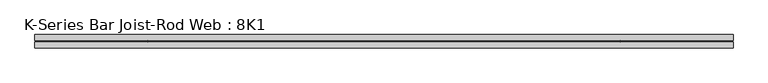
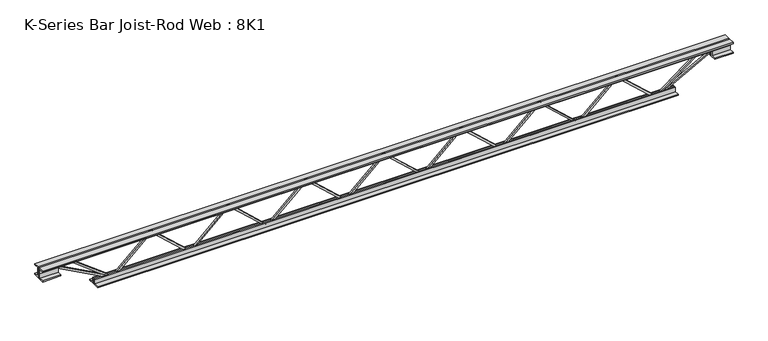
"""IFC4 building model written with IfcOpenShell, lengths in millimetres: beam geometry, K-Series Bar Joist-Rod Web : 8K1."""

from ifc_helpers import new_model, si_unit, frame, origin, place, context, project, spatial, polyline, outline, extrude, source, transform, mapped, element, save


def k_series_bar_joist_rod_web_8k1_8956f8d8(model_context):
    return source(origin(), model_context, "Body", "SweptSolid", [
        extrude(outline(polyline([(-90.4875, 644.6574045), (-100.0125, 644.6574045), (-100.0125, 649.6802342), (90.4875, 858.2160357), (90.4875, 860.8703764), (-100.0125, 1069.4061779), (-100.0125, 1074.4290076), (-90.4875, 1074.4290076), (-90.4875, 1073.1018372), (100.0125, 864.5660357), (100.0125, 854.5203764), (-90.4875, 645.9845749), (-90.4875, 644.6574045)])), frame((0.0, -4.7625, 0.0), z_axis=(0.0, 1.0, 0.0), x_axis=(0.0, 0.0, 1.0)), (0.0, 0.0, 1.0), 9.525),
        extrude(outline(polyline([(-90.4875, 214.8858015), (-100.0125, 214.8858015), (-100.0125, 219.9086312), (90.4875, 428.4444327), (90.4875, 431.0987734), (-100.0125, 639.6345749), (-100.0125, 644.6574045), (-90.4875, 644.6574045), (-90.4875, 643.3302342), (100.0125, 434.7944327), (100.0125, 424.7487734), (-90.4875, 216.2129719), (-90.4875, 214.8858015)])), frame((0.0, -4.7625, 0.0), z_axis=(0.0, 1.0, 0.0), x_axis=(0.0, 0.0, 1.0)), (0.0, 0.0, 1.0), 9.525),
        extrude(outline(polyline([(-90.4875, -214.8858015), (-100.0125, -214.8858015), (-100.0125, -209.8629719), (90.4875, -1.3271704), (90.4875, 1.3271704), (-100.0125, 209.8629719), (-100.0125, 214.8858015), (-90.4875, 214.8858015), (-90.4875, 213.5586312), (100.0125, 5.0228296), (100.0125, -5.0228296), (-90.4875, -213.5586312), (-90.4875, -214.8858015)])), frame((0.0, -4.7625, 0.0), z_axis=(0.0, 1.0, 0.0), x_axis=(0.0, 0.0, 1.0)), (0.0, 0.0, 1.0), 9.525),
        extrude(outline(polyline([(-90.4875, -644.6574045), (-100.0125, -644.6574045), (-100.0125, -639.6345749), (90.4875, -431.0987734), (90.4875, -428.4444327), (-100.0125, -219.9086312), (-100.0125, -214.8858015), (-90.4875, -214.8858015), (-90.4875, -216.2129719), (100.0125, -424.7487734), (100.0125, -434.7944327), (-90.4875, -643.3302342), (-90.4875, -644.6574045)])), frame((0.0, -4.7625, 0.0), z_axis=(0.0, 1.0, 0.0), x_axis=(0.0, 0.0, 1.0)), (0.0, 0.0, 1.0), 9.525),
        extrude(outline(polyline([(-90.4875, -1074.4290076), (-100.0125, -1074.4290076), (-100.0125, -1069.4061779), (90.4875, -860.8703764), (90.4875, -858.2160357), (-100.0125, -649.6802342), (-100.0125, -644.6574045), (-90.4875, -644.6574045), (-90.4875, -645.9845749), (100.0125, -854.5203764), (100.0125, -864.5660357), (-90.4875, -1073.1018372), (-90.4875, -1074.4290076)])), frame((0.0, -4.7625, 0.0), z_axis=(0.0, 1.0, 0.0), x_axis=(0.0, 0.0, 1.0)), (0.0, 0.0, 1.0), 9.525),
        extrude(outline(polyline([(-90.4875, 1074.4290076), (-100.0125, 1074.4290076), (-100.0125, 1079.4518372), (90.4875, 1287.9876387), (90.4875, 1290.6419794), (-100.0125, 1499.1777809), (-100.0125, 1504.2006106), (-90.4875, 1504.2006106), (-90.4875, 1502.8734402), (100.0125, 1294.3376387), (100.0125, 1284.2919794), (-90.4875, 1075.7561779), (-90.4875, 1074.4290076)])), frame((0.0, -4.7625, 0.0), z_axis=(0.0, 1.0, 0.0), x_axis=(0.0, 0.0, 1.0)), (0.0, 0.0, 1.0), 9.525),
        extrude(outline(polyline([(-90.4875, -1504.2006106), (-100.0125, -1504.2006106), (-100.0125, -1499.1777809), (90.4875, -1290.6419794), (90.4875, -1287.9876387), (-100.0125, -1079.4518372), (-100.0125, -1074.4290076), (-90.4875, -1074.4290076), (-90.4875, -1075.7561779), (100.0125, -1284.2919794), (100.0125, -1294.3376387), (-90.4875, -1502.8734402), (-90.4875, -1504.2006106)])), frame((0.0, -4.7625, 0.0), z_axis=(0.0, 1.0, 0.0), x_axis=(0.0, 0.0, 1.0)), (0.0, 0.0, 1.0), 9.525),
        extrude(outline(polyline([(4.7625, 101.6), (36.5125, 101.6), (36.5125, 95.25), (11.1125, 95.25), (11.1125, 69.85), (4.7625, 69.85), (4.7625, 101.6)])), frame((-1910.6006106, 0.0, 0.0), z_axis=(1.0, 0.0, 0.0), x_axis=(0.0, 1.0, 0.0)), (0.0, 0.0, 1.0), 3821.2012212),
        extrude(outline(polyline([(-4.7625, 101.6), (-4.7625, 69.85), (-11.1125, 69.85), (-11.1125, 95.25), (-36.5125, 95.25), (-36.5125, 101.6), (-4.7625, 101.6)])), frame((-1910.6006106, 0.0, 0.0), z_axis=(1.0, 0.0, 0.0), x_axis=(0.0, 1.0, 0.0)), (0.0, 0.0, 1.0), 3821.2012212),
        extrude(outline(polyline([(-4.7625, 38.1), (-36.5125, 38.1), (-36.5125, 44.45), (-11.1125, 44.45), (-11.1125, 69.85), (-4.7625, 69.85), (-4.7625, 38.1)])), frame((-1910.6006106, 0.0, 0.0), z_axis=(1.0, 0.0, 0.0), x_axis=(0.0, 1.0, 0.0)), (0.0, 0.0, 1.0), 101.6),
        extrude(outline(polyline([(36.5125, 38.1), (4.7625, 38.1), (4.7625, 69.85), (11.1125, 69.85), (11.1125, 44.45), (36.5125, 44.45), (36.5125, 38.1)])), frame((-1910.6006106, 0.0, 0.0), z_axis=(1.0, 0.0, 0.0), x_axis=(0.0, 1.0, 0.0)), (0.0, 0.0, 1.0), 101.6),
        extrude(outline(polyline([(4.7625, 38.1), (4.7625, 69.85), (11.1125, 69.85), (11.1125, 44.45), (36.5125, 44.45), (36.5125, 38.1), (4.7625, 38.1)])), frame((1809.0006106, 0.0, 0.0), z_axis=(1.0, 0.0, 0.0), x_axis=(0.0, 1.0, 0.0)), (0.0, 0.0, 1.0), 101.6),
        extrude(outline(polyline([(-4.7625, 38.1), (-36.5125, 38.1), (-36.5125, 44.45), (-11.1125, 44.45), (-11.1125, 69.85), (-4.7625, 69.85), (-4.7625, 38.1)])), frame((1809.0006106, 0.0, 0.0), z_axis=(1.0, 0.0, 0.0), x_axis=(0.0, 1.0, 0.0)), (0.0, 0.0, 1.0), 101.6),
        extrude(outline(polyline([(4.7625, -101.6), (4.7625, -69.85), (11.1125, -69.85), (11.1125, -95.25), (36.5125, -95.25), (36.5125, -101.6), (4.7625, -101.6)])), frame((-1605.8006106, 0.0, 0.0), z_axis=(1.0, 0.0, 0.0), x_axis=(0.0, 1.0, 0.0)), (0.0, 0.0, 1.0), 3211.6012212),
        extrude(outline(polyline([(-4.7625, -101.6), (-36.5125, -101.6), (-36.5125, -95.25), (-11.1125, -95.25), (-11.1125, -69.85), (-4.7625, -69.85), (-4.7625, -101.6)])), frame((-1605.8006106, 0.0, 0.0), z_axis=(1.0, 0.0, 0.0), x_axis=(0.0, 1.0, 0.0)), (0.0, 0.0, 1.0), 3211.6012212),
        extrude(outline(polyline([(0.0, -9.525), (0.0, 0.0), (346.6425392, 0.0), (346.6425392, -9.525), (0.0, -9.525)])), frame((-1811.2689091, 4.7625, 65.662372), z_axis=(0.47628314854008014, 0.0, 0.8792919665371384), x_axis=(0.8792919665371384, 0.0, -0.47628314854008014)), (0.0, 0.0, 1.0), 9.525),
        extrude(outline(polyline([(0.0, -9.525), (0.0, 0.0), (270.9869327, 0.0), (270.9869327, -9.525), (0.0, -9.525)])), frame((-1721.9879865, 4.7625, 66.0734576), z_axis=(0.6092544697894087, 0.0, 0.7929747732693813), x_axis=(0.7929747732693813, 0.0, -0.6092544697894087)), (0.0, 0.0, 1.0), 9.525),
        extrude(outline(polyline([(0.0, -9.525), (0.0, 0.0), (346.6425392, 0.0), (346.6425392, -9.525), (0.0, -9.525)])), frame((1811.2689091, -4.7625, 65.662372), z_axis=(-0.47628314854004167, 0.0, 0.8792919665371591), x_axis=(-0.8792919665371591, 0.0, -0.47628314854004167)), (0.0, 0.0, 1.0), 9.525),
        extrude(outline(polyline([(0.0, -9.525), (0.0, 0.0), (270.9869327, 0.0), (270.9869327, -9.525), (0.0, -9.525)])), frame((1721.9879865, -4.7625, 66.0734576), z_axis=(-0.609254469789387, 0.0, 0.7929747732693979), x_axis=(-0.7929747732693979, 0.0, -0.609254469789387)), (0.0, 0.0, 1.0), 9.525),
    ])


if __name__ == "__main__":
    model = new_model("IFC4")
    model_context = context("Model", 3, world=origin())
    ifc_project = project(units=[si_unit("LENGTHUNIT", "METRE", prefix="MILLI")], contexts=[model_context])
    site = spatial("IfcSite", under=ifc_project)
    building = spatial("IfcBuilding", under=site)
    placement = place(None, origin())
    k_series_bar_joist_rod_web_8k1_shape = k_series_bar_joist_rod_web_8k1_8956f8d8(model_context)
    element("IfcBeam", 1, ObjectType="K-Series Bar Joist-Rod Web : 8K1", at=placement, inside=building, context=model_context, shape_type="MappedRepresentation", body=[
        mapped(k_series_bar_joist_rod_web_8k1_shape, transform((0.0, 0.0, 0.0), x_axis=(1.0, 0.0, 0.0), y_axis=(0.0, 1.0, 0.0), z_axis=(0.0, 0.0, 1.0))),
    ])
    save(model, "model.ifc")
